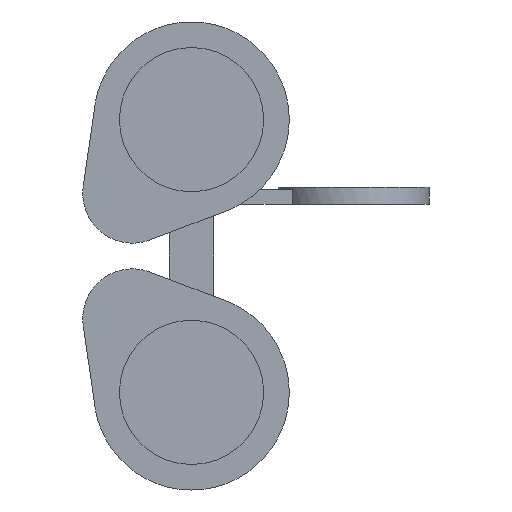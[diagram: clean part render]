
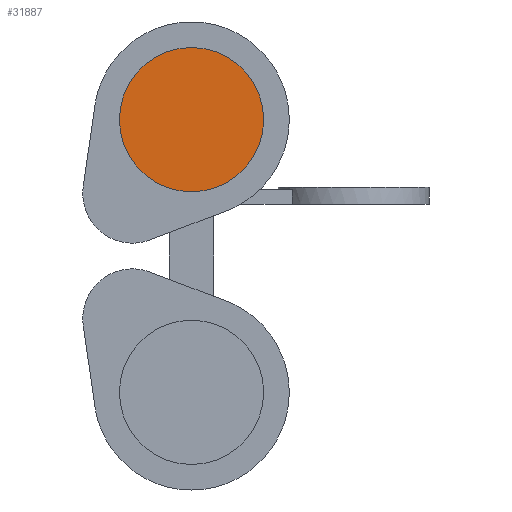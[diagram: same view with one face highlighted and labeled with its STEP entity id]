
A CAD part, front view. The second image highlights one B-rep face of the part: STEP entity #31887.
In plain terms, the highlighted planar face has unit normal (0, -1, 0).
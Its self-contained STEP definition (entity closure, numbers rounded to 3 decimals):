
#31643 = CYLINDRICAL_SURFACE('',#31644,22.075);
#31644 = AXIS2_PLACEMENT_3D('',#31645,#31646,#31647);
#31645 = CARTESIAN_POINT('',(-44.,13.,23.));
#31646 = DIRECTION('',(0.,-1.,0.));
#31647 = DIRECTION('',(0.,-0.,-1.));
#31783 = VERTEX_POINT('',#31784);
#31784 = CARTESIAN_POINT('',(-44.,13.,0.925));
#31805 = EDGE_CURVE('',#31783,#31783,#31806,.T.);
#31806 = SURFACE_CURVE('',#31807,(#31812,#31819),.PCURVE_S1.);
#31807 = CIRCLE('',#31808,22.075);
#31808 = AXIS2_PLACEMENT_3D('',#31809,#31810,#31811);
#31809 = CARTESIAN_POINT('',(-44.,13.,23.));
#31810 = DIRECTION('',(0.,-1.,0.));
#31811 = DIRECTION('',(0.,-0.,-1.));
#31812 = PCURVE('',#31643,#31813);
#31813 = DEFINITIONAL_REPRESENTATION('',(#31814),#31818);
#31814 = LINE('',#31815,#31816);
#31815 = CARTESIAN_POINT('',(0.,0.));
#31816 = VECTOR('',#31817,1.);
#31817 = DIRECTION('',(1.,0.));
#31818 = ( GEOMETRIC_REPRESENTATION_CONTEXT(2) 
PARAMETRIC_REPRESENTATION_CONTEXT() REPRESENTATION_CONTEXT('2D SPACE',''
  ) );
#31819 = PCURVE('',#31820,#31825);
#31820 = PLANE('',#31821);
#31821 = AXIS2_PLACEMENT_3D('',#31822,#31823,#31824);
#31822 = CARTESIAN_POINT('',(-44.,13.,23.));
#31823 = DIRECTION('',(0.,-1.,0.));
#31824 = DIRECTION('',(0.,-0.,-1.));
#31825 = DEFINITIONAL_REPRESENTATION('',(#31826),#31830);
#31826 = CIRCLE('',#31827,22.075);
#31827 = AXIS2_PLACEMENT_2D('',#31828,#31829);
#31828 = CARTESIAN_POINT('',(0.,0.));
#31829 = DIRECTION('',(1.,0.));
#31830 = ( GEOMETRIC_REPRESENTATION_CONTEXT(2) 
PARAMETRIC_REPRESENTATION_CONTEXT() REPRESENTATION_CONTEXT('2D SPACE',''
  ) );
#31887 = ADVANCED_FACE('',(#31888),#31820,.T.);
#31888 = FACE_BOUND('',#31889,.F.);
#31889 = EDGE_LOOP('',(#31890));
#31890 = ORIENTED_EDGE('',*,*,#31805,.F.);
